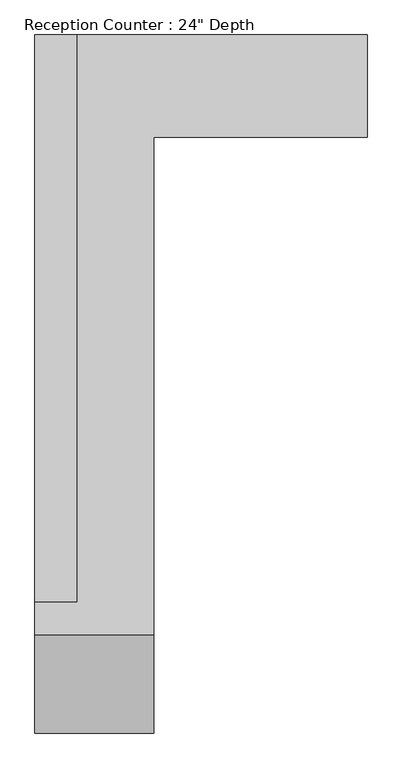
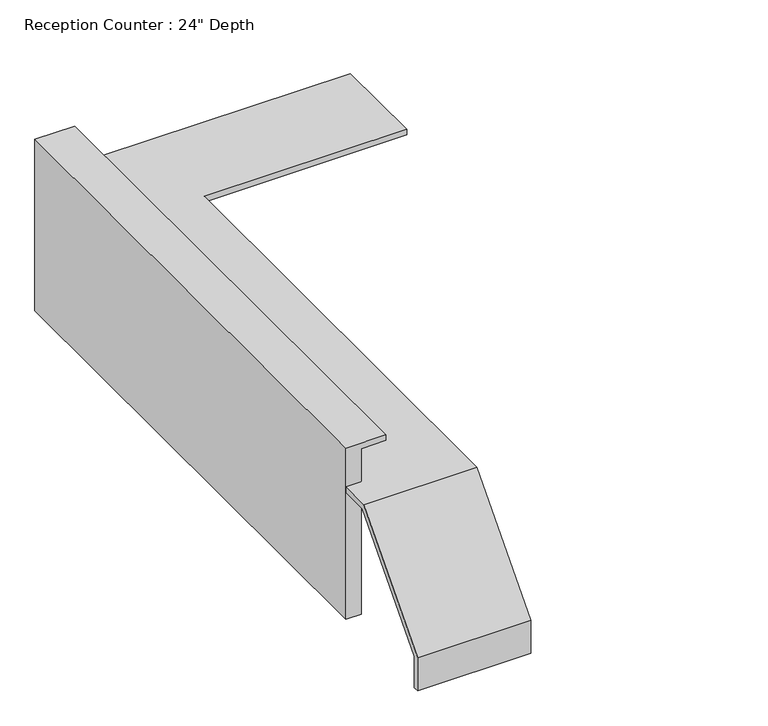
"""IFC4 building model written with IfcOpenShell, lengths in millimetres: furniture geometry."""

from ifc_helpers import new_model, si_unit, frame, origin, place, context, project, spatial, polyline, outline, extrude, faceted_brep, source, transform, mapped, element, save


def furniture_35f6b429(model_context):
    return source(origin(), model_context, "Body", "SolidModel", [
        extrude(outline(polyline([(0.0, -1302.0622951), (0.0, -1200.4622951), (1143.0, -1200.4622951), (1143.0, -1041.7122951), (1181.1, -1041.7122951), (1181.1, -1302.0622951), (0.0, -1302.0622951)])), frame((0.0, -3511.55, 0.0), z_axis=(0.0, 1.0, 0.0), x_axis=(0.0, 0.0, 1.0)), (0.0, 0.0, 1.0), 3511.55),
        faceted_brep([(755.3377049, 0.0, 914.4), (-1200.4622951, 0.0, 914.4), (-1200.4622951, -3511.55, 914.4), (-1302.0622951, -3511.55, 914.4), (-1302.0622951, -3714.75, 914.4), (-565.4622951, -3714.75, 914.4), (-565.4622951, -635.0, 914.4), (755.3377049, -635.0, 914.4), (755.3377049, 0.0, 876.3), (755.3377049, -635.0, 876.3), (-565.4622951, -635.0, 876.3), (-565.4622951, -3697.6405829, 876.3), (-1302.0622951, -3697.6405829, 876.3), (-1302.0622951, -3511.55, 876.3), (-1200.4622951, -3511.55, 876.3), (-1200.4622951, 0.0, 876.3), (-565.4622951, -4324.35, 228.6), (-565.4622951, -4324.35, 0.0), (-565.4622951, -4286.25, 0.0), (-565.4622951, -4286.25, 214.1144058), (-1302.0622951, -4324.35, 228.6), (-1302.0622951, -4286.25, 214.1144058), (-1302.0622951, -4286.25, 0.0), (-1302.0622951, -4324.35, 0.0)], [[[0, 1, 2, 3, 4, 5, 6, 7]], [[8, 9, 10, 11, 12, 13, 14, 15]], [[1, 0, 8, 15]], [[2, 1, 15, 14]], [[6, 5, 16, 17, 18, 19, 11, 10]], [[7, 6, 10, 9]], [[0, 7, 9, 8]], [[20, 4, 3, 13, 12, 21, 22, 23]], [[4, 20, 16, 5]], [[21, 12, 11, 19]], [[22, 21, 19, 18]], [[23, 22, 18, 17]], [[20, 23, 17, 16]], [[13, 3, 2, 14]]]),
    ])


if __name__ == "__main__":
    model = new_model("IFC4")
    model_context = context("Model", 3, world=origin())
    ifc_project = project(units=[si_unit("LENGTHUNIT", "METRE", prefix="MILLI")], contexts=[model_context])
    site = spatial("IfcSite", under=ifc_project)
    building = spatial("IfcBuilding", under=site)
    placement = place(None, origin())
    furniture_shape = furniture_35f6b429(model_context)
    element("IfcFurniture", 1, ObjectType="Reception Counter : 24\" Depth", at=placement, inside=building, context=model_context, shape_type="MappedRepresentation", body=[
        mapped(furniture_shape, transform((0.0, 0.0, 0.0), x_axis=(1.0, 0.0, 0.0), y_axis=(0.0, 1.0, 0.0), z_axis=(0.0, 0.0, 1.0))),
    ])
    save(model, "model.ifc")
